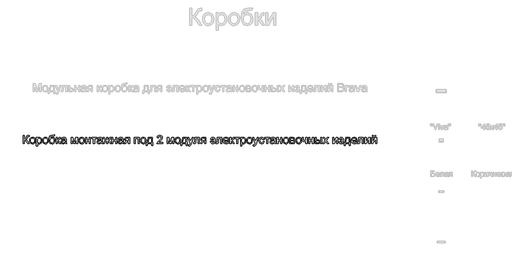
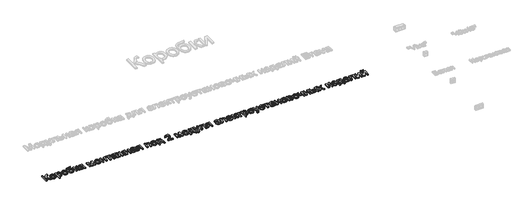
# One storey, part 38 of 48: 1 proxy.
"""IFC4 building model written with IfcOpenShell, lengths in millimetres."""

from ifc_helpers import new_model, si_unit, origin, origin_with_axes, place, context, project, spatial, polyline, outline, extrude, element, save

model = new_model("IFC4")

# Units and contexts
model_context = context("Model", 3, world=origin())
ifc_project = project(units=[si_unit("LENGTHUNIT", "METRE", prefix="MILLI")], contexts=[model_context])

# Site, building, storey
site = spatial("IfcSite", under=ifc_project)
building = spatial("IfcBuilding", under=site)
storey = spatial("IfcBuildingStorey", under=building, Name="Этаж 01", Elevation=0.0)

# Proxy
placement = place(None, origin())
element("IfcBuildingElementProxy", 1, Name="150 мм Arial", ObjectType="150 мм Arial", at=placement, inside=storey, context=model_context, shape_type="SweptSolid", body=[
    extrude(outline(polyline([(37161.6028971, 3244.4392307), (37180.4384552, 3244.4392307), (37180.4384552, 3178.5147772), (37193.1901649, 3179.7609775), (37201.4996994, 3183.4995782), (37216.1965851, 3208.717889), (37226.5892515, 3229.7791332), (37238.3614754, 3240.2085878), (37255.1920766, 3244.4392307), (37267.5529117, 3244.2185015), (37267.5529117, 3225.3829434), (37263.3958451, 3225.493308), (37259.2387786, 3225.6036726), (37244.5234988, 3221.078724), (37233.3398861, 3201.6913429), (37220.0041638, 3178.0733188), (37206.9995353, 3170.2742205), (37221.5400711, 3161.7577523), (37235.8782719, 3144.0074461), (37267.5529117, 3093.7547655), (37245.7007212, 3093.7547655), (37218.9189119, 3136.2083478), (37200.0649597, 3158.373238), (37191.3599519, 3162.8843909), (37180.4384552, 3164.3881086), (37180.4384552, 3093.7547655), (37161.6028971, 3093.7547655), (37161.6028971, 3244.4392307)])), origin_with_axes(), (0.0, 0.0, 1.0), 20.0),
    extrude(outline(polyline([(37276.9706907, 3149.0842176), (37281.0449838, 3175.7648593), (37293.2678631, 3194.517644), (37308.369419, 3203.7054968), (37326.4508191, 3206.7681144), (37346.2382719, 3203.0387107), (37362.0434021, 3191.8504995), (37372.4038788, 3174.0863977), (37375.857371, 3150.629322), (37374.3306608, 3131.6006258), (37369.7505299, 3117.1152722), (37362.2503358, 3106.2673519), (37351.9634355, 3098.1509554), (37339.7451547, 3093.0879794), (37326.4508191, 3091.4003207), (37306.424243, 3095.1159289), (37290.6375069, 3106.2627533), (37280.3873948, 3124.3993357), (37276.9706907, 3149.0842176)]), holes=[polyline([(37295.8062489, 3149.1210058), (37297.9859497, 3132.0742738), (37304.5250522, 3119.9295695), (37314.3658956, 3112.6593015), (37326.4508191, 3110.2358789), (37338.4805603, 3112.6730971), (37348.3030096, 3119.9847518), (37354.8421121, 3132.2904045), (37357.0218129, 3149.709617), (37354.8283165, 3166.2597082), (37348.2478273, 3178.2388657), (37338.4115825, 3185.5091336), (37326.4508191, 3187.9325563), (37314.3658956, 3185.5183307), (37304.5250522, 3178.2756539), (37297.9859497, 3166.1585407), (37295.8062489, 3149.1210058)])]), origin_with_axes(), (0.0, 0.0, 1.0), 20.0),
    extrude(outline(polyline([(37397.047374, 3051.3747597), (37397.047374, 3204.4136697), (37415.8829321, 3204.4136697), (37415.8829321, 3185.9459935), (37428.9059548, 3201.5625842), (37446.4907141, 3206.7681144), (37459.2286282, 3204.9470986), (37470.3662556, 3199.4840509), (37479.4345468, 3190.7100653), (37485.9644522, 3178.9562356), (37491.2251647, 3149.9303462), (37489.7398412, 3133.8217133), (37485.2838705, 3119.4145347), (37477.999807, 3107.4399757), (37468.0302049, 3098.6292019), (37456.4189295, 3093.207541), (37444.2098458, 3091.4003207), (37427.8207029, 3096.237969), (37415.8829321, 3108.4700453), (37415.8829321, 3051.3747597), (37397.047374, 3051.3747597)]), holes=[polyline([(37415.8829321, 3148.2013008), (37417.9200787, 3131.3155172), (37424.0315183, 3119.5065052), (37433.0492257, 3112.5535355), (37443.8051756, 3110.2358789), (37454.7358693, 3112.6363089), (37463.983503, 3119.837599), (37470.2880807, 3132.0788724), (37472.3896066, 3149.5992524), (37470.3386645, 3166.3930655), (37464.1858381, 3178.3676244), (37455.1819263, 3185.5413233), (37444.5777277, 3187.9325563), (37433.9321425, 3185.389572), (37424.5833413, 3177.7606191), (37418.0580344, 3165.2848209), (37415.8829321, 3148.2013008)])]), origin_with_axes(), (0.0, 0.0, 1.0), 20.0),
    extrude(outline(polyline([(37507.7062781, 3149.0842176), (37511.7805712, 3175.7648593), (37524.0034505, 3194.517644), (37539.1050064, 3203.7054968), (37557.1864065, 3206.7681144), (37576.9738593, 3203.0387107), (37592.7789895, 3191.8504995), (37603.1394662, 3174.0863977), (37606.5929584, 3150.629322), (37605.0662481, 3131.6006258), (37600.4861173, 3117.1152722), (37592.9859231, 3106.2673519), (37582.6990228, 3098.1509554), (37570.4807421, 3093.0879794), (37557.1864065, 3091.4003207), (37537.1598304, 3095.1159289), (37521.3730942, 3106.2627533), (37511.1229822, 3124.3993357), (37507.7062781, 3149.0842176)]), holes=[polyline([(37526.5418363, 3149.1210058), (37528.7215371, 3132.0742738), (37535.2606396, 3119.9295695), (37545.1014829, 3112.6593015), (37557.1864065, 3110.2358789), (37569.2161477, 3112.6730971), (37579.038597, 3119.9847518), (37585.5776994, 3132.2904045), (37587.7574003, 3149.709617), (37585.5639039, 3166.2597082), (37578.9834147, 3178.2388657), (37569.1471698, 3185.5091336), (37557.1864065, 3187.9325563), (37545.1014829, 3185.5183307), (37535.2606396, 3178.2756539), (37528.7215371, 3166.1585407), (37526.5418363, 3149.1210058)])]), origin_with_axes(), (0.0, 0.0, 1.0), 20.0),
    extrude(outline(polyline([(37705.4796387, 3246.7936755), (37721.9607521, 3246.7936755), (37717.1047098, 3232.0967898), (37707.5029897, 3226.780895), (37684.4367886, 3225.6036726), (37653.3691541, 3221.262665), (37646.2414405, 3215.6156764), (37641.4497775, 3207.3567256), (37637.4214696, 3182.7454201), (37653.7370361, 3200.7716379), (37663.6560544, 3205.2689953), (37674.7614921, 3206.7681144), (37694.3604054, 3202.9559373), (37710.2621047, 3191.5194057), (37720.8019238, 3173.5805599), (37724.3151969, 3150.26144), (37722.5723559, 3132.2812075), (37717.3438331, 3117.8510362), (37700.8075374, 3098.2981082), (37689.5135601, 3093.1247676), (37674.7614921, 3091.4003207), (37657.7607454, 3093.6214083), (37645.0182328, 3100.2846709), (37635.6418405, 3110.4106228), (37628.7394545, 3123.0197782), (37624.4904175, 3142.0070877), (37623.0740718, 3171.2675019), (37626.6471257, 3207.4073094), (37637.3662873, 3229.4480394), (37655.4982712, 3240.6914329), (37681.3097916, 3244.4392307), (37702.2790654, 3244.862295), (37705.4796387, 3246.7936755)]), holes=[polyline([(37705.4796387, 3150.8500512), (37703.4378937, 3165.671097), (37697.3126584, 3177.5398899), (37687.4718151, 3185.3343897), (37674.2832455, 3187.9325563), (37660.533656, 3185.1872369), (37650.3341277, 3176.9512787), (37644.0157544, 3164.1259927), (37641.90963, 3147.6126896), (37644.2364836, 3131.6052243), (37651.2170444, 3119.8559931), (37661.6097108, 3112.6409074), (37674.1728809, 3110.2358789), (37686.8004304, 3113.0179865), (37696.7976236, 3121.3643092), (37703.309135, 3134.2999599), (37705.4796387, 3150.8500512)])]), origin_with_axes(), (0.0, 0.0, 1.0), 20.0),
    extrude(outline(polyline([(37747.8596446, 3204.4136697), (37766.6952027, 3204.4136697), (37766.6952027, 3157.3247743), (37779.3135552, 3160.7092886), (37789.6510392, 3180.4277636), (37798.2410838, 3197.4423059), (37805.8194529, 3202.9789299), (37819.5966336, 3204.4136697), (37823.2018772, 3204.4136697), (37823.2018772, 3185.4677469), (37818.1251057, 3185.5781115), (37808.9280558, 3183.5915487), (37802.4533327, 3171.1939255), (37794.8565695, 3157.7846268), (37784.2063857, 3151.2179332), (37796.0889741, 3143.8878844), (37807.7508334, 3128.4460377), (37827.9107667, 3093.7547655), (37806.5000346, 3093.7547655), (37786.7447715, 3127.7102737), (37776.8119576, 3142.0760656), (37766.6952027, 3145.5525504), (37766.6952027, 3093.7547655), (37747.8596446, 3093.7547655), (37747.8596446, 3204.4136697)])), origin_with_axes(), (0.0, 0.0, 1.0), 20.0),
    extrude(outline(polyline([(37910.3163336, 3107.8814341), (37892.0509926, 3095.1159289), (37871.8726651, 3091.4003207), (37856.1319143, 3093.6352039), (37844.5206388, 3100.3398532), (37837.3607355, 3110.5209874), (37834.974101, 3123.1853251), (37838.5793446, 3138.0845459), (37848.052306, 3148.9002766), (37861.2408755, 3155.0806941), (37877.5380479, 3157.9133855), (37910.205969, 3164.3881086), (37910.3163336, 3168.5819633), (37909.0195496, 3176.9880669), (37905.1291975, 3182.4879027), (37896.4287883, 3186.5713929), (37884.3070766, 3187.9325563), (37865.2507892, 3184.3089186), (37856.164104, 3171.4514429), (37837.3285458, 3173.8058877), (37845.477132, 3192.1999874), (37861.884669, 3202.9789299), (37886.7350978, 3206.7681144), (37909.5621756, 3203.4203883), (37922.4564395, 3195.0142847), (37928.2321868, 3182.2303854), (37929.1518918, 3165.749272), (37929.1518918, 3142.3151889), (37930.108385, 3109.5920854), (37933.8607813, 3093.7547655), (37915.0252232, 3093.7547655), (37910.3163336, 3107.8814341)]), holes=[polyline([(37910.3163336, 3145.5525504), (37879.9292808, 3139.7768031), (37863.724079, 3136.7233825), (37856.3848331, 3131.7569756), (37853.8096592, 3124.5097003), (37859.4198596, 3114.319369), (37875.8825789, 3110.2358789), (37894.9388662, 3114.7424333), (37907.2261249, 3125.6501345), (37910.205969, 3140.2182615), (37910.3163336, 3145.5525504)])]), origin_with_axes(), (0.0, 0.0, 1.0), 20.0),
    extrude(outline(polyline([(38013.9119035, 3204.4136697), (38046.3223073, 3204.4136697), (38071.3014947, 3115.8276852), (38098.2304568, 3204.4136697), (38129.2796972, 3204.4136697), (38129.2796972, 3093.7547655), (38110.444139, 3093.7547655), (38110.444139, 3182.8557847), (38083.3680242, 3093.7547655), (38058.6463541, 3093.7547655), (38032.7474616, 3187.1232159), (38032.7474616, 3093.7547655), (38013.9119035, 3093.7547655), (38013.9119035, 3204.4136697)])), origin_with_axes(), (0.0, 0.0, 1.0), 20.0),
    extrude(outline(polyline([(38152.8241449, 3149.0842176), (38156.898438, 3175.7648593), (38169.1213172, 3194.517644), (38184.2228732, 3203.7054968), (38202.3042732, 3206.7681144), (38222.091726, 3203.0387107), (38237.8968562, 3191.8504995), (38248.2573329, 3174.0863977), (38251.7108252, 3150.629322), (38250.1841149, 3131.6006258), (38245.603984, 3117.1152722), (38238.1037899, 3106.2673519), (38227.8168896, 3098.1509554), (38215.5986088, 3093.0879794), (38202.3042732, 3091.4003207), (38182.2776971, 3095.1159289), (38166.490961, 3106.2627533), (38156.2408489, 3124.3993357), (38152.8241449, 3149.0842176)]), holes=[polyline([(38171.659703, 3149.1210058), (38173.8394038, 3132.0742738), (38180.3785063, 3119.9295695), (38190.2193497, 3112.6593015), (38202.3042732, 3110.2358789), (38214.3340145, 3112.6730971), (38224.1564637, 3119.9847518), (38230.6955662, 3132.2904045), (38232.875267, 3149.709617), (38230.6817706, 3166.2597082), (38224.1012814, 3178.2388657), (38214.2650366, 3185.5091336), (38202.3042732, 3187.9325563), (38190.2193497, 3185.5183307), (38180.3785063, 3178.2756539), (38173.8394038, 3166.1585407), (38171.659703, 3149.1210058)])]), origin_with_axes(), (0.0, 0.0, 1.0), 20.0),
    extrude(outline(polyline([(38272.9008281, 3204.4136697), (38291.7363862, 3204.4136697), (38291.7363862, 3162.0336638), (38341.1797264, 3162.0336638), (38341.1797264, 3204.4136697), (38360.0152845, 3204.4136697), (38360.0152845, 3093.7547655), (38341.1797264, 3093.7547655), (38341.1797264, 3143.1981057), (38291.7363862, 3143.1981057), (38291.7363862, 3093.7547655), (38272.9008281, 3093.7547655), (38272.9008281, 3204.4136697)])), origin_with_axes(), (0.0, 0.0, 1.0), 20.0),
    extrude(outline(polyline([(38378.8508427, 3204.4136697), (38468.3197439, 3204.4136697), (38468.3197439, 3185.5781115), (38433.0030724, 3185.5781115), (38433.0030724, 3093.7547655), (38414.1675142, 3093.7547655), (38414.1675142, 3185.5781115), (38378.8508427, 3185.5781115), (38378.8508427, 3204.4136697)])), origin_with_axes(), (0.0, 0.0, 1.0), 20.0),
    extrude(outline(polyline([(38555.4342004, 3107.8814341), (38537.1688593, 3095.1159289), (38516.9905319, 3091.4003207), (38501.249781, 3093.6352039), (38489.6385055, 3100.3398532), (38482.4786022, 3110.5209874), (38480.0919678, 3123.1853251), (38483.6972113, 3138.0845459), (38493.1701727, 3148.9002766), (38506.3587422, 3155.0806941), (38522.6559146, 3157.9133855), (38555.3238358, 3164.3881086), (38555.4342004, 3168.5819633), (38554.1374164, 3176.9880669), (38550.2470643, 3182.4879027), (38541.5466551, 3186.5713929), (38529.4249433, 3187.9325563), (38510.368656, 3184.3089186), (38501.2819707, 3171.4514429), (38482.4464125, 3173.8058877), (38490.5949987, 3192.1999874), (38507.0025357, 3202.9789299), (38531.8529645, 3206.7681144), (38554.6800423, 3203.4203883), (38567.5743062, 3195.0142847), (38573.3500535, 3182.2303854), (38574.2697585, 3165.749272), (38574.2697585, 3142.3151889), (38575.2262517, 3109.5920854), (38578.9786481, 3093.7547655), (38560.1430899, 3093.7547655), (38555.4342004, 3107.8814341)]), holes=[polyline([(38555.4342004, 3145.5525504), (38525.0471476, 3139.7768031), (38508.8419457, 3136.7233825), (38501.5026999, 3131.7569756), (38498.9275259, 3124.5097003), (38504.5377264, 3114.319369), (38521.0004456, 3110.2358789), (38540.056733, 3114.7424333), (38552.3439916, 3125.6501345), (38555.3238358, 3140.2182615), (38555.4342004, 3145.5525504)])]), origin_with_axes(), (0.0, 0.0, 1.0), 20.0),
    extrude(outline(polyline([(38668.4475493, 3204.4136697), (38668.4475493, 3157.3247743), (38679.4288269, 3161.2059293), (38689.8214932, 3181.3474686), (38702.2191165, 3200.6612733), (38719.840664, 3204.4136697), (38727.3086685, 3204.4136697), (38727.3086685, 3185.4677469), (38722.1215324, 3185.5781115), (38712.4094477, 3183.6283369), (38705.6772072, 3171.4146547), (38697.8597148, 3158.0237501), (38686.6944963, 3151.2179332), (38699.0093461, 3143.8878844), (38711.0114961, 3128.4460377), (38732.0175581, 3093.7547655), (38710.422885, 3093.7547655), (38689.7479168, 3127.9677911), (38679.2080977, 3142.1864302), (38668.4475493, 3145.5525504), (38668.4475493, 3093.7547655), (38649.6119911, 3093.7547655), (38649.6119911, 3145.5525504), (38638.888231, 3142.2600066), (38628.2748354, 3128.0413675), (38607.5998673, 3093.7547655), (38586.0419824, 3093.7547655), (38606.9744679, 3128.4460377), (38619.0685885, 3143.8878844), (38631.4386206, 3151.2179332), (38619.5928203, 3158.7227259), (38609.4392773, 3178.0365306), (38604.4728703, 3184.4008891), (38596.3426782, 3185.6884761), (38590.7508719, 3185.5781115), (38590.7508719, 3204.4136697), (38593.5835633, 3204.4136697), (38610.1014649, 3203.2364473), (38618.6731154, 3198.2332521), (38628.2748354, 3181.3474686), (38638.5571372, 3161.334688), (38649.6119911, 3157.3247743), (38649.6119911, 3204.4136697), (38668.4475493, 3204.4136697)])), origin_with_axes(), (0.0, 0.0, 1.0), 20.0),
    extrude(outline(polyline([(38741.4353371, 3204.4136697), (38760.2708953, 3204.4136697), (38760.2708953, 3162.0336638), (38809.7142355, 3162.0336638), (38809.7142355, 3204.4136697), (38828.5497936, 3204.4136697), (38828.5497936, 3093.7547655), (38809.7142355, 3093.7547655), (38809.7142355, 3143.1981057), (38760.2708953, 3143.1981057), (38760.2708953, 3093.7547655), (38741.4353371, 3093.7547655), (38741.4353371, 3204.4136697)])), origin_with_axes(), (0.0, 0.0, 1.0), 20.0),
    extrude(outline(polyline([(38927.4364739, 3107.8814341), (38909.1711328, 3095.1159289), (38888.9928054, 3091.4003207), (38873.2520545, 3093.6352039), (38861.6407791, 3100.3398532), (38854.4808757, 3110.5209874), (38852.0942413, 3123.1853251), (38855.6994848, 3138.0845459), (38865.1724462, 3148.9002766), (38878.3610158, 3155.0806941), (38894.6581881, 3157.9133855), (38927.3261093, 3164.3881086), (38927.4364739, 3168.5819633), (38926.1396899, 3176.9880669), (38922.2493378, 3182.4879027), (38913.5489286, 3186.5713929), (38901.4272168, 3187.9325563), (38882.3709295, 3184.3089186), (38873.2842442, 3171.4514429), (38854.4486861, 3173.8058877), (38862.5972723, 3192.1999874), (38879.0048092, 3202.9789299), (38903.855238, 3206.7681144), (38926.6823158, 3203.4203883), (38939.5765797, 3195.0142847), (38945.3523271, 3182.2303854), (38946.2720321, 3165.749272), (38946.2720321, 3142.3151889), (38947.2285252, 3109.5920854), (38950.9809216, 3093.7547655), (38932.1453634, 3093.7547655), (38927.4364739, 3107.8814341)]), holes=[polyline([(38927.4364739, 3145.5525504), (38897.0494211, 3139.7768031), (38880.8442192, 3136.7233825), (38873.5049734, 3131.7569756), (38870.9297994, 3124.5097003), (38876.5399999, 3114.319369), (38893.0027192, 3110.2358789), (38912.0590065, 3114.7424333), (38924.3462651, 3125.6501345), (38927.3261093, 3140.2182615), (38927.4364739, 3145.5525504)])]), origin_with_axes(), (0.0, 0.0, 1.0), 20.0),
    extrude(outline(polyline([(39056.9309362, 3204.4136697), (39056.9309362, 3093.7547655), (39038.0953781, 3093.7547655), (39038.0953781, 3136.1347714), (39027.8314704, 3136.1347714), (39013.8519546, 3133.7435384), (39000.7185673, 3117.6670952), (38985.7089819, 3093.7547655), (38963.9303678, 3093.7547655), (38982.8395024, 3123.9946655), (38991.1904237, 3134.8471844), (38998.8791574, 3139.6664385), (38986.0032875, 3143.6119729), (38976.9533905, 3151.1075686), (38971.6007074, 3161.0771706), (38969.8164798, 3172.4447243), (38972.253698, 3185.3389882), (38979.5653526, 3195.5477136), (38991.4939263, 3202.1971806), (39007.7819017, 3204.4136697), (39056.9309362, 3204.4136697)]), holes=[polyline([(39038.0953781, 3185.5781115), (39013.2633434, 3185.5781115), (39000.4380573, 3184.4882611), (38993.1585923, 3181.2187099), (38988.6520379, 3171.0099845), (38990.3121054, 3163.8316871), (38995.2923079, 3158.8514846), (39018.8183615, 3154.9703295), (39038.0953781, 3154.9703295), (39038.0953781, 3185.5781115)])]), origin_with_axes(), (0.0, 0.0, 1.0), 20.0),
    extrude(outline(polyline([(39144.0453927, 3204.4136697), (39228.8054044, 3204.4136697), (39228.8054044, 3093.7547655), (39209.9698462, 3093.7547655), (39209.9698462, 3185.5781115), (39162.8809508, 3185.5781115), (39162.8809508, 3093.7547655), (39144.0453927, 3093.7547655), (39144.0453927, 3204.4136697)])), origin_with_axes(), (0.0, 0.0, 1.0), 20.0),
    extrude(outline(polyline([(39252.349852, 3149.0842176), (39256.4241451, 3175.7648593), (39268.6470244, 3194.517644), (39283.7485803, 3203.7054968), (39301.8299804, 3206.7681144), (39321.6174332, 3203.0387107), (39337.4225634, 3191.8504995), (39347.7830401, 3174.0863977), (39351.2365324, 3150.629322), (39349.7098221, 3131.6006258), (39345.1296912, 3117.1152722), (39337.6294971, 3106.2673519), (39327.3425968, 3098.1509554), (39315.124316, 3093.0879794), (39301.8299804, 3091.4003207), (39281.8034043, 3095.1159289), (39266.0166682, 3106.2627533), (39255.7665561, 3124.3993357), (39252.349852, 3149.0842176)]), holes=[polyline([(39271.1854102, 3149.1210058), (39273.365111, 3132.0742738), (39279.9042135, 3119.9295695), (39289.7450569, 3112.6593015), (39301.8299804, 3110.2358789), (39313.8597216, 3112.6730971), (39323.6821709, 3119.9847518), (39330.2212734, 3132.2904045), (39332.4009742, 3149.709617), (39330.2074778, 3166.2597082), (39323.6269886, 3178.2388657), (39313.7907438, 3185.5091336), (39301.8299804, 3187.9325563), (39289.7450569, 3185.5183307), (39279.9042135, 3178.2756539), (39273.365111, 3166.1585407), (39271.1854102, 3149.1210058)])]), origin_with_axes(), (0.0, 0.0, 1.0), 20.0),
    extrude(outline(polyline([(39388.9076487, 3204.4136697), (39459.5409917, 3204.4136697), (39459.5409917, 3112.5903237), (39473.6676603, 3112.5903237), (39473.6676603, 3063.1469835), (39454.8321022, 3063.1469835), (39454.8321022, 3093.7547655), (39377.1354248, 3093.7547655), (39377.1354248, 3063.1469835), (39358.2998667, 3063.1469835), (39358.2998667, 3112.5903237), (39370.0720905, 3112.5903237), (39378.6299454, 3128.055163), (39384.6218234, 3148.5140005), (39388.9076487, 3204.4136697)]), holes=[polyline([(39405.388762, 3185.5781115), (39400.9741781, 3142.6646768), (39391.2620934, 3112.5903237), (39440.7054336, 3112.5903237), (39440.7054336, 3185.5781115), (39405.388762, 3185.5781115)])]), origin_with_axes(), (0.0, 0.0, 1.0), 20.0),
    extrude(outline(polyline([(39645.5421285, 3112.5903237), (39645.5421285, 3093.7547655), (39546.6554482, 3093.7547655), (39548.6787992, 3106.7409999), (39560.1199292, 3126.7353864), (39583.7011651, 3148.5691828), (39616.2219335, 3179.949517), (39622.3195775, 3190.7652476), (39624.3521256, 3201.2866727), (39622.4345407, 3210.7182474), (39616.681786, 3218.5587324), (39607.8388225, 3223.8424375), (39596.6506113, 3225.6036726), (39584.9013801, 3223.8838243), (39575.7733081, 3218.7242793), (39569.8825977, 3210.5297078), (39567.8454511, 3199.7047801), (39549.009893, 3202.0592249), (39553.5762282, 3220.2785807), (39563.4492613, 3233.5867119), (39578.1139573, 3241.726101), (39597.0552815, 3244.4392307), (39616.1345615, 3241.4225984), (39630.7716664, 3232.3727013), (39640.0836794, 3218.853038), (39643.1876837, 3202.4271069), (39639.8399576, 3184.566436), (39628.7115272, 3166.0987599), (39601.7273829, 3140.2918379), (39580.0591334, 3122.1736496), (39571.5610593, 3112.5903237), (39645.5421285, 3112.5903237)])), origin_with_axes(), (0.0, 0.0, 1.0), 20.0),
    extrude(outline(polyline([(39727.9476954, 3204.4136697), (39760.3580992, 3204.4136697), (39785.3372867, 3115.8276852), (39812.2662487, 3204.4136697), (39843.3154891, 3204.4136697), (39843.3154891, 3093.7547655), (39824.4799309, 3093.7547655), (39824.4799309, 3182.8557847), (39797.4038161, 3093.7547655), (39772.682146, 3093.7547655), (39746.7832536, 3187.1232159), (39746.7832536, 3093.7547655), (39727.9476954, 3093.7547655), (39727.9476954, 3204.4136697)])), origin_with_axes(), (0.0, 0.0, 1.0), 20.0),
    extrude(outline(polyline([(39866.8599368, 3149.0842176), (39870.9342299, 3175.7648593), (39883.1571092, 3194.517644), (39898.2586651, 3203.7054968), (39916.3400651, 3206.7681144), (39936.127518, 3203.0387107), (39951.9326482, 3191.8504995), (39962.2931249, 3174.0863977), (39965.7466171, 3150.629322), (39964.2199068, 3131.6006258), (39959.639776, 3117.1152722), (39952.1395818, 3106.2673519), (39941.8526815, 3098.1509554), (39929.6344007, 3093.0879794), (39916.3400651, 3091.4003207), (39896.313489, 3095.1159289), (39880.5267529, 3106.2627533), (39870.2766408, 3124.3993357), (39866.8599368, 3149.0842176)]), holes=[polyline([(39885.6954949, 3149.1210058), (39887.8751958, 3132.0742738), (39894.4142982, 3119.9295695), (39904.2551416, 3112.6593015), (39916.3400651, 3110.2358789), (39928.3698064, 3112.6730971), (39938.1922557, 3119.9847518), (39944.7313581, 3132.2904045), (39946.9110589, 3149.709617), (39944.7175625, 3166.2597082), (39938.1370734, 3178.2388657), (39928.3008285, 3185.5091336), (39916.3400651, 3187.9325563), (39904.2551416, 3185.5183307), (39894.4142982, 3178.2756539), (39887.8751958, 3166.1585407), (39885.6954949, 3149.1210058)])]), origin_with_axes(), (0.0, 0.0, 1.0), 20.0),
    extrude(outline(polyline([(40003.4177334, 3204.4136697), (40074.0510765, 3204.4136697), (40074.0510765, 3112.5903237), (40088.1777451, 3112.5903237), (40088.1777451, 3063.1469835), (40069.3421869, 3063.1469835), (40069.3421869, 3093.7547655), (39991.6455096, 3093.7547655), (39991.6455096, 3063.1469835), (39972.8099514, 3063.1469835), (39972.8099514, 3112.5903237), (39984.5821752, 3112.5903237), (39993.1400302, 3128.055163), (39999.1319082, 3148.5140005), (40003.4177334, 3204.4136697)]), holes=[polyline([(40019.8988468, 3185.5781115), (40015.4842628, 3142.6646768), (40005.7721782, 3112.5903237), (40055.2155183, 3112.5903237), (40055.2155183, 3185.5781115), (40019.8988468, 3185.5781115)])]), origin_with_axes(), (0.0, 0.0, 1.0), 20.0),
    extrude(outline(polyline([(40109.367748, 3051.3747597), (40107.0133032, 3069.511342), (40116.5782351, 3067.8558731), (40125.5177676, 3069.9344063), (40130.9992093, 3075.7285477), (40136.1495573, 3089.597699), (40137.6210852, 3094.1594357), (40097.5955242, 3204.4136697), (40117.4611519, 3204.4136697), (40138.687943, 3142.9773765), (40146.0823711, 3118.4028592), (40153.4767992, 3140.1078969), (40175.2922015, 3204.4136697), (40195.0106765, 3204.4136697), (40156.4934316, 3091.1060151), (40146.4870413, 3066.5314979), (40135.5609461, 3053.2509578), (40120.8824545, 3049.0203149), (40109.367748, 3051.3747597)])), origin_with_axes(), (0.0, 0.0, 1.0), 20.0),
    extrude(outline(polyline([(40220.0266522, 3204.4136697), (40304.7866638, 3204.4136697), (40304.7866638, 3093.8651301), (40285.9511057, 3093.8651301), (40285.9511057, 3185.5781115), (40238.8622103, 3185.5781115), (40238.8622103, 3132.7870452), (40237.5930174, 3108.4332571), (40230.6216536, 3098.1509554), (40214.1405402, 3093.7547655), (40198.8366492, 3094.7112587), (40198.8366492, 3112.5903237), (40207.2611469, 3112.5903237), (40215.7776151, 3113.7491519), (40219.1805236, 3117.4279719), (40220.0266522, 3133.853903), (40220.0266522, 3204.4136697)])), origin_with_axes(), (0.0, 0.0, 1.0), 20.0),
    extrude(outline(polyline([(40417.8000128, 3204.4136697), (40417.8000128, 3093.7547655), (40398.9644546, 3093.7547655), (40398.9644546, 3136.1347714), (40388.7005469, 3136.1347714), (40374.7210311, 3133.7435384), (40361.5876439, 3117.6670952), (40346.5780585, 3093.7547655), (40324.7994444, 3093.7547655), (40343.7085789, 3123.9946655), (40352.0595002, 3134.8471844), (40359.7482339, 3139.6664385), (40346.8723641, 3143.6119729), (40337.822467, 3151.1075686), (40332.469784, 3161.0771706), (40330.6855563, 3172.4447243), (40333.1227745, 3185.3389882), (40340.4344292, 3195.5477136), (40352.3630029, 3202.1971806), (40368.6509782, 3204.4136697), (40417.8000128, 3204.4136697)]), holes=[polyline([(40398.9644546, 3185.5781115), (40374.1324199, 3185.5781115), (40361.3071339, 3184.4882611), (40354.0276689, 3181.2187099), (40349.5211145, 3171.0099845), (40351.181182, 3163.8316871), (40356.1613845, 3158.8514846), (40379.6874381, 3154.9703295), (40398.9644546, 3154.9703295), (40398.9644546, 3185.5781115)])]), origin_with_axes(), (0.0, 0.0, 1.0), 20.0),
    extrude(outline(polyline([(40535.5222512, 3162.0336638), (40570.8389228, 3162.0336638), (40567.9372535, 3172.4677169), (40562.3224546, 3180.7404633), (40554.3624079, 3186.134533), (40544.4249955, 3187.9325563), (40529.1578927, 3183.2236667), (40521.3955826, 3169.0969981), (40502.5600245, 3171.4514429), (40506.9516158, 3185.5919071), (40515.4910766, 3196.8904829), (40527.7461456, 3204.2987065), (40543.2845613, 3206.7681144), (40562.5109941, 3202.9237476), (40577.2216754, 3191.390647), (40586.5612795, 3173.125306), (40589.6744809, 3149.0842176), (40587.1039055, 3125.1534938), (40578.2149568, 3106.3363297), (40563.6882165, 3094.4721354), (40544.2042663, 3091.4003207), (40527.5024237, 3094.1548372), (40514.3322483, 3102.4183865), (40505.0984102, 3115.1792932), (40500.2055797, 3131.4258818), (40519.0411378, 3133.7803266), (40522.0163835, 3123.4796307), (40527.1529358, 3116.1219908), (40534.4507949, 3111.7074069), (40543.9099607, 3110.2358789), (40554.5509474, 3112.2960181), (40562.5615779, 3118.4764356), (40567.9786402, 3128.7771315), (40570.8389228, 3143.1981057), (40535.5222512, 3143.1981057), (40535.5222512, 3162.0336638)])), origin_with_axes(), (0.0, 0.0, 1.0), 20.0),
    extrude(outline(polyline([(40620.2822629, 3204.4136697), (40705.0422746, 3204.4136697), (40705.0422746, 3093.8651301), (40686.2067164, 3093.8651301), (40686.2067164, 3185.5781115), (40639.1178211, 3185.5781115), (40639.1178211, 3132.7870452), (40637.8486282, 3108.4332571), (40630.8772644, 3098.1509554), (40614.396151, 3093.7547655), (40599.09226, 3094.7112587), (40599.09226, 3112.5903237), (40607.5167577, 3112.5903237), (40616.0332259, 3113.7491519), (40619.4361343, 3117.4279719), (40620.2822629, 3133.853903), (40620.2822629, 3204.4136697)])), origin_with_axes(), (0.0, 0.0, 1.0), 20.0),
    extrude(outline(polyline([(40810.77156, 3126.7169923), (40829.2392362, 3124.3625475), (40822.5851706, 3110.447411), (40811.9671765, 3100.0455476), (40797.6243772, 3093.5616275), (40779.795896, 3091.4003207), (40757.6953852, 3095.1297245), (40740.6900399, 3106.3179356), (40729.8467181, 3124.2383873), (40726.2322775, 3148.1645126), (40729.8835063, 3172.8953797), (40740.8371927, 3191.390647), (40757.6126117, 3202.9237476), (40778.7290382, 3206.7681144), (40799.1878757, 3202.9329446), (40815.5356319, 3191.4274352), (40826.2547935, 3172.9689561), (40829.8278474, 3148.2748772), (40829.7174828, 3143.1981057), (40745.0678357, 3143.1981057), (40748.3281899, 3129.0990282), (40755.9019604, 3118.733953), (40766.8326542, 3112.3603974), (40780.163778, 3110.2358789), (40798.6314542, 3114.1722162), (40810.77156, 3126.7169923)]), holes=[polyline([(40745.0678357, 3162.0336638), (40810.9922892, 3162.0336638), (40808.4447064, 3171.9848718), (40803.4507083, 3179.1033884), (40792.4694308, 3185.7252643), (40778.6554618, 3187.9325563), (40765.9589345, 3186.1713212), (40755.460502, 3180.8876161), (40748.162643, 3172.6516579), (40745.0678357, 3162.0336638)])]), origin_with_axes(), (0.0, 0.0, 1.0), 20.0),
    extrude(outline(polyline([(40848.6634055, 3204.4136697), (40867.4989637, 3204.4136697), (40867.4989637, 3157.3247743), (40880.1173161, 3160.7092886), (40890.4548002, 3180.4277636), (40899.0448448, 3197.4423059), (40906.6232139, 3202.9789299), (40920.4003946, 3204.4136697), (40924.0056381, 3204.4136697), (40924.0056381, 3185.4677469), (40918.9288666, 3185.5781115), (40909.7318167, 3183.5915487), (40903.2570936, 3171.1939255), (40895.6603304, 3157.7846268), (40885.0101466, 3151.2179332), (40896.8927351, 3143.8878844), (40908.5545943, 3128.4460377), (40928.7145277, 3093.7547655), (40907.3037955, 3093.7547655), (40887.5485324, 3127.7102737), (40877.6157185, 3142.0760656), (40867.4989637, 3145.5525504), (40867.4989637, 3093.7547655), (40848.6634055, 3093.7547655), (40848.6634055, 3204.4136697)])), origin_with_axes(), (0.0, 0.0, 1.0), 20.0),
    extrude(outline(polyline([(40931.0689724, 3204.4136697), (41020.5378737, 3204.4136697), (41020.5378737, 3185.5781115), (40985.2212021, 3185.5781115), (40985.2212021, 3093.7547655), (40966.385644, 3093.7547655), (40966.385644, 3185.5781115), (40931.0689724, 3185.5781115), (40931.0689724, 3204.4136697)])), origin_with_axes(), (0.0, 0.0, 1.0), 20.0),
    extrude(outline(polyline([(41037.018987, 3051.3747597), (41037.018987, 3204.4136697), (41055.8545452, 3204.4136697), (41055.8545452, 3185.9459935), (41068.8775678, 3201.5625842), (41086.4623272, 3206.7681144), (41099.2002413, 3204.9470986), (41110.3378687, 3199.4840509), (41119.4061599, 3190.7100653), (41125.9360653, 3178.9562356), (41131.1967778, 3149.9303462), (41129.7114543, 3133.8217133), (41125.2554836, 3119.4145347), (41117.9714201, 3107.4399757), (41108.001818, 3098.6292019), (41096.3905425, 3093.207541), (41084.1814588, 3091.4003207), (41067.7923159, 3096.237969), (41055.8545452, 3108.4700453), (41055.8545452, 3051.3747597), (41037.018987, 3051.3747597)]), holes=[polyline([(41055.8545452, 3148.2013008), (41057.8916918, 3131.3155172), (41064.0031314, 3119.5065052), (41073.0208388, 3112.5535355), (41083.7767886, 3110.2358789), (41094.7074824, 3112.6363089), (41103.9551161, 3119.837599), (41110.2596938, 3132.0788724), (41112.3612197, 3149.5992524), (41110.3102775, 3166.3930655), (41104.1574512, 3178.3676244), (41095.1535393, 3185.5413233), (41084.5493408, 3187.9325563), (41073.9037556, 3185.389572), (41064.5549544, 3177.7606191), (41058.0296475, 3165.2848209), (41055.8545452, 3148.2013008)])]), origin_with_axes(), (0.0, 0.0, 1.0), 20.0),
    extrude(outline(polyline([(41147.6778912, 3149.0842176), (41151.7521843, 3175.7648593), (41163.9750636, 3194.517644), (41179.0766195, 3203.7054968), (41197.1580195, 3206.7681144), (41216.9454724, 3203.0387107), (41232.7506026, 3191.8504995), (41243.1110793, 3174.0863977), (41246.5645715, 3150.629322), (41245.0378612, 3131.6006258), (41240.4577304, 3117.1152722), (41232.9575362, 3106.2673519), (41222.6706359, 3098.1509554), (41210.4523551, 3093.0879794), (41197.1580195, 3091.4003207), (41177.1314434, 3095.1159289), (41161.3447073, 3106.2627533), (41151.0945952, 3124.3993357), (41147.6778912, 3149.0842176)]), holes=[polyline([(41166.5134494, 3149.1210058), (41168.6931502, 3132.0742738), (41175.2322526, 3119.9295695), (41185.073096, 3112.6593015), (41197.1580195, 3110.2358789), (41209.1877608, 3112.6730971), (41219.0102101, 3119.9847518), (41225.5493125, 3132.2904045), (41227.7290133, 3149.709617), (41225.535517, 3166.2597082), (41218.9550278, 3178.2388657), (41209.1187829, 3185.5091336), (41197.1580195, 3187.9325563), (41185.073096, 3185.5183307), (41175.2322526, 3178.2756539), (41168.6931502, 3166.1585407), (41166.5134494, 3149.1210058)])]), origin_with_axes(), (0.0, 0.0, 1.0), 20.0),
    extrude(outline(polyline([(41267.7545744, 3051.3747597), (41265.4001297, 3069.511342), (41274.9650615, 3067.8558731), (41283.904594, 3069.9344063), (41289.3860357, 3075.7285477), (41294.5363837, 3089.597699), (41296.0079117, 3094.1594357), (41255.9823506, 3204.4136697), (41275.8479783, 3204.4136697), (41297.0747694, 3142.9773765), (41304.4691975, 3118.4028592), (41311.8636256, 3140.1078969), (41333.679028, 3204.4136697), (41353.3975029, 3204.4136697), (41314.880258, 3091.1060151), (41304.8738677, 3066.5314979), (41293.9477725, 3053.2509578), (41279.2692809, 3049.0203149), (41267.7545744, 3051.3747597)])), origin_with_axes(), (0.0, 0.0, 1.0), 20.0),
    extrude(outline(polyline([(41439.6290426, 3133.7803266), (41458.4646007, 3131.4258818), (41453.2130852, 3114.6734555), (41443.3446507, 3102.0137163), (41429.7881992, 3094.0536696), (41413.4726327, 3091.4003207), (41393.4368596, 3095.1021333), (41377.7696851, 3106.207571), (41367.6575287, 3124.2291903), (41364.28681, 3148.6795474), (41365.7261483, 3165.4411708), (41370.0441632, 3179.9679111), (41377.3098326, 3191.6987482), (41387.5921344, 3200.0726621), (41399.8931886, 3205.0942514), (41413.2151153, 3206.7681144), (41429.1306101, 3204.468852), (41441.8547286, 3197.5710645), (41450.9828006, 3186.4426342), (41456.110156, 3171.4514429), (41437.2745978, 3169.0969981), (41428.5374004, 3183.2052726), (41413.3622681, 3187.9325563), (41401.1899726, 3185.6057027), (41391.5284717, 3178.6251418), (41385.223894, 3166.6137947), (41383.1223681, 3149.1945822), (41385.1779088, 3131.5408449), (41391.3445307, 3119.4881111), (41400.8312877, 3112.5489369), (41412.8472333, 3110.2358789), (41422.6007047, 3111.6798157), (41430.5975396, 3116.0116262), (41436.4146736, 3123.341675), (41439.6290426, 3133.7803266)])), origin_with_axes(), (0.0, 0.0, 1.0), 20.0),
    extrude(outline(polyline([(41465.527935, 3204.4136697), (41554.9968363, 3204.4136697), (41554.9968363, 3185.5781115), (41519.6801647, 3185.5781115), (41519.6801647, 3093.7547655), (41500.8446066, 3093.7547655), (41500.8446066, 3185.5781115), (41465.527935, 3185.5781115), (41465.527935, 3204.4136697)])), origin_with_axes(), (0.0, 0.0, 1.0), 20.0),
    extrude(outline(polyline([(41642.1112927, 3107.8814341), (41623.8459517, 3095.1159289), (41603.6676242, 3091.4003207), (41587.9268734, 3093.6352039), (41576.3155979, 3100.3398532), (41569.1556945, 3110.5209874), (41566.7690601, 3123.1853251), (41570.3743037, 3138.0845459), (41579.847265, 3148.9002766), (41593.0358346, 3155.0806941), (41609.3330069, 3157.9133855), (41642.0009281, 3164.3881086), (41642.1112927, 3168.5819633), (41640.8145087, 3176.9880669), (41636.9241566, 3182.4879027), (41628.2237474, 3186.5713929), (41616.1020357, 3187.9325563), (41597.0457483, 3184.3089186), (41587.959063, 3171.4514429), (41569.1235049, 3173.8058877), (41577.2720911, 3192.1999874), (41593.6796281, 3202.9789299), (41618.5300568, 3206.7681144), (41641.3571346, 3203.4203883), (41654.2513986, 3195.0142847), (41660.0271459, 3182.2303854), (41660.9468509, 3165.749272), (41660.9468509, 3142.3151889), (41661.9033441, 3109.5920854), (41665.6557404, 3093.7547655), (41646.8201823, 3093.7547655), (41642.1112927, 3107.8814341)]), holes=[polyline([(41642.1112927, 3145.5525504), (41611.7242399, 3139.7768031), (41595.519038, 3136.7233825), (41588.1797922, 3131.7569756), (41585.6046183, 3124.5097003), (41591.2148187, 3114.319369), (41607.677538, 3110.2358789), (41626.7338253, 3114.7424333), (41639.021084, 3125.6501345), (41642.0009281, 3140.2182615), (41642.1112927, 3145.5525504)])]), origin_with_axes(), (0.0, 0.0, 1.0), 20.0),
    extrude(outline(polyline([(41686.8457433, 3204.4136697), (41705.6813015, 3204.4136697), (41705.6813015, 3162.0336638), (41755.1246416, 3162.0336638), (41755.1246416, 3204.4136697), (41773.9601998, 3204.4136697), (41773.9601998, 3093.7547655), (41755.1246416, 3093.7547655), (41755.1246416, 3143.1981057), (41705.6813015, 3143.1981057), (41705.6813015, 3093.7547655), (41686.8457433, 3093.7547655), (41686.8457433, 3204.4136697)])), origin_with_axes(), (0.0, 0.0, 1.0), 20.0),
    extrude(outline(polyline([(41797.5046475, 3149.0842176), (41801.5789406, 3175.7648593), (41813.8018199, 3194.517644), (41828.9033758, 3203.7054968), (41846.9847758, 3206.7681144), (41866.7722286, 3203.0387107), (41882.5773589, 3191.8504995), (41892.9378356, 3174.0863977), (41896.3913278, 3150.629322), (41894.8646175, 3131.6006258), (41890.2844867, 3117.1152722), (41882.7842925, 3106.2673519), (41872.4973922, 3098.1509554), (41860.2791114, 3093.0879794), (41846.9847758, 3091.4003207), (41826.9581997, 3095.1159289), (41811.1714636, 3106.2627533), (41800.9213515, 3124.3993357), (41797.5046475, 3149.0842176)]), holes=[polyline([(41816.3402056, 3149.1210058), (41818.5199065, 3132.0742738), (41825.0590089, 3119.9295695), (41834.8998523, 3112.6593015), (41846.9847758, 3110.2358789), (41859.0145171, 3112.6730971), (41868.8369663, 3119.9847518), (41875.3760688, 3132.2904045), (41877.5557696, 3149.709617), (41875.3622732, 3166.2597082), (41868.781784, 3178.2388657), (41858.9455392, 3185.5091336), (41846.9847758, 3187.9325563), (41834.8998523, 3185.5183307), (41825.0590089, 3178.2756539), (41818.5199065, 3166.1585407), (41816.3402056, 3149.1210058)])]), origin_with_axes(), (0.0, 0.0, 1.0), 20.0),
    extrude(outline(polyline([(41917.5813307, 3204.4136697), (41959.0784198, 3204.4136697), (41981.8319212, 3201.893678), (41994.6342146, 3192.6598399), (41999.9868976, 3176.5650026), (41996.7495361, 3163.4867977), (41987.0006632, 3154.1609891), (41999.6558038, 3143.9522638), (42004.6957872, 3126.2019575), (42001.5044109, 3111.8453626), (41993.9168447, 3101.7378048), (41981.9054976, 3095.7505253), (41965.4427783, 3093.7547655), (41917.5813307, 3093.7547655), (41917.5813307, 3204.4136697)]), holes=[polyline([(41936.4168889, 3162.0336638), (41955.0317178, 3162.0336638), (41970.3907911, 3162.990157), (41977.8587956, 3166.8161298), (41981.1513395, 3173.7323113), (41979.7074026, 3179.3517087), (41975.3755921, 3182.9661493), (41955.620329, 3185.5781115), (41936.4168889, 3185.5781115), (41936.4168889, 3162.0336638)]), polyline([(41936.4168889, 3112.5903237), (41959.5198782, 3112.5903237), (41980.0109053, 3115.9932321), (41984.2507453, 3120.6331438), (41985.860229, 3127.7470619), (41982.6412616, 3136.815353), (41974.2535521, 3142.0944597), (41957.6804682, 3143.1981057), (41936.4168889, 3143.1981057), (41936.4168889, 3112.5903237)])]), origin_with_axes(), (0.0, 0.0, 1.0), 20.0),
    extrude(outline(polyline([(42023.5313453, 3149.0842176), (42027.6056384, 3175.7648593), (42039.8285177, 3194.517644), (42054.9300736, 3203.7054968), (42073.0114737, 3206.7681144), (42092.7989265, 3203.0387107), (42108.6040567, 3191.8504995), (42118.9645334, 3174.0863977), (42122.4180256, 3150.629322), (42120.8913153, 3131.6006258), (42116.3111845, 3117.1152722), (42108.8109903, 3106.2673519), (42098.52409, 3098.1509554), (42086.3058093, 3093.0879794), (42073.0114737, 3091.4003207), (42052.9848976, 3095.1159289), (42037.1981614, 3106.2627533), (42026.9480493, 3124.3993357), (42023.5313453, 3149.0842176)]), holes=[polyline([(42042.3669035, 3149.1210058), (42044.5466043, 3132.0742738), (42051.0857068, 3119.9295695), (42060.9265501, 3112.6593015), (42073.0114737, 3110.2358789), (42085.0412149, 3112.6730971), (42094.8636642, 3119.9847518), (42101.4027666, 3132.2904045), (42103.5824675, 3149.709617), (42101.3889711, 3166.2597082), (42094.8084819, 3178.2388657), (42084.972237, 3185.5091336), (42073.0114737, 3187.9325563), (42060.9265501, 3185.5183307), (42051.0857068, 3178.2756539), (42044.5466043, 3166.1585407), (42042.3669035, 3149.1210058)])]), origin_with_axes(), (0.0, 0.0, 1.0), 20.0),
    extrude(outline(polyline([(42136.5446942, 3204.4136697), (42155.3802524, 3204.4136697), (42155.3802524, 3183.1868785), (42156.9069627, 3163.2844626), (42164.2462085, 3152.5055201), (42178.8143355, 3147.9069952), (42204.8235925, 3153.6091661), (42204.8235925, 3204.4136697), (42223.6591507, 3204.4136697), (42223.6591507, 3093.7547655), (42204.8235925, 3093.7547655), (42204.8235925, 3135.5461602), (42173.7743521, 3129.071437), (42162.3838059, 3130.7590957), (42152.4188023, 3135.8220717), (42144.6518937, 3143.3314629), (42139.8556322, 3152.3583673), (42136.5446942, 3173.8794641), (42136.5446942, 3204.4136697)])), origin_with_axes(), (0.0, 0.0, 1.0), 20.0),
    extrude(outline(polyline([(42251.9124879, 3204.4136697), (42270.7480461, 3204.4136697), (42270.7480461, 3162.0336638), (42320.1913862, 3162.0336638), (42320.1913862, 3204.4136697), (42339.0269444, 3204.4136697), (42339.0269444, 3093.7547655), (42320.1913862, 3093.7547655), (42320.1913862, 3143.1981057), (42270.7480461, 3143.1981057), (42270.7480461, 3093.7547655), (42251.9124879, 3093.7547655), (42251.9124879, 3204.4136697)])), origin_with_axes(), (0.0, 0.0, 1.0), 20.0),
    extrude(outline(polyline([(42470.8758514, 3204.4136697), (42489.7114096, 3204.4136697), (42489.7114096, 3093.7547655), (42470.8758514, 3093.7547655), (42470.8758514, 3204.4136697)])), origin_with_axes(), (0.0, 0.0, 1.0), 20.0),
    extrude(outline(polyline([(42367.2802816, 3204.4136697), (42386.1158398, 3204.4136697), (42386.1158398, 3164.3881086), (42409.4027701, 3164.3881086), (42429.5305137, 3162.0290653), (42444.4435301, 3154.9519354), (42453.6727697, 3143.726936), (42456.7491828, 3128.9242842), (42454.1694103, 3115.4460077), (42446.4300929, 3104.0738555), (42433.0253927, 3096.334538), (42413.449472, 3093.7547655), (42367.2802816, 3093.7547655), (42367.2802816, 3204.4136697)]), holes=[polyline([(42386.1158398, 3112.5903237), (42405.4664327, 3112.5903237), (42430.4456202, 3116.5450551), (42436.0466236, 3121.6080311), (42437.9136247, 3128.8874961), (42432.3770007, 3140.4757789), (42423.497249, 3144.2833575), (42407.9312421, 3145.5525504), (42386.1158398, 3145.5525504), (42386.1158398, 3112.5903237)])]), origin_with_axes(), (0.0, 0.0, 1.0), 20.0),
    extrude(outline(polyline([(42506.192523, 3093.7547655), (42546.4388133, 3149.3785232), (42508.5469678, 3204.4136697), (42531.2084987, 3204.4136697), (42549.4922338, 3177.926166), (42558.0270961, 3165.4181782), (42565.4215242, 3175.6452976), (42586.2436451, 3204.4136697), (42608.905176, 3204.4136697), (42569.1003442, 3149.3785232), (42607.4336481, 3093.7547655), (42584.7721172, 3093.7547655), (42561.7059161, 3127.1952389), (42557.4752731, 3133.30208), (42528.8540539, 3093.7547655), (42506.192523, 3093.7547655)])), origin_with_axes(), (0.0, 0.0, 1.0), 20.0),
    extrude(outline(polyline([(42682.7758807, 3204.4136697), (42701.6114388, 3204.4136697), (42701.6114388, 3120.02154), (42747.8909938, 3204.4136697), (42772.2447819, 3204.4136697), (42772.2447819, 3093.7547655), (42753.4092237, 3093.7547655), (42753.4092237, 3177.6318604), (42707.4239743, 3093.7547655), (42682.7758807, 3093.7547655), (42682.7758807, 3204.4136697)])), origin_with_axes(), (0.0, 0.0, 1.0), 20.0),
    extrude(outline(polyline([(42826.3970116, 3143.1981057), (42826.3970116, 3162.0336638), (42841.2594442, 3162.7694278), (42848.7642369, 3166.6873711), (42852.295904, 3174.8727454), (42847.5686204, 3184.382495), (42835.3733323, 3187.9325563), (42822.7733739, 3184.4008891), (42814.6247877, 3173.8058877), (42793.4347848, 3176.1603324), (42799.0541823, 3189.5512371), (42807.5982416, 3199.1161689), (42819.0669628, 3204.8551281), (42833.4603459, 3206.7681144), (42849.2056953, 3204.4366623), (42861.1250719, 3197.4423059), (42868.6298646, 3187.2105879), (42871.1314622, 3175.167051), (42867.5722039, 3163.4684036), (42856.894429, 3154.4185065), (42869.3472345, 3142.6830709), (42873.485907, 3125.7972873), (42870.8601492, 3111.9327346), (42862.982876, 3100.9468585), (42850.3875162, 3093.7869552), (42833.6074987, 3091.4003207), (42817.1953632, 3093.6076127), (42804.6367916, 3100.2294886), (42795.9317839, 3111.2659485), (42791.0803401, 3126.7169923), (42812.270343, 3129.071437), (42820.7684171, 3115.1654976), (42835.4101205, 3110.2358789), (42849.1689071, 3114.9631625), (42854.6503488, 3127.0480861), (42851.2474404, 3136.9441117), (42844.0001651, 3142.2416125), (42830.0758315, 3143.3084703), (42826.3970116, 3143.1981057)])), origin_with_axes(), (0.0, 0.0, 1.0), 20.0),
    extrude(outline(polyline([(42913.511468, 3204.4136697), (42984.1448111, 3204.4136697), (42984.1448111, 3112.5903237), (42998.2714797, 3112.5903237), (42998.2714797, 3063.1469835), (42979.4359216, 3063.1469835), (42979.4359216, 3093.7547655), (42901.7392442, 3093.7547655), (42901.7392442, 3063.1469835), (42882.903686, 3063.1469835), (42882.903686, 3112.5903237), (42894.6759099, 3112.5903237), (42903.2337648, 3128.055163), (42909.2256428, 3148.5140005), (42913.511468, 3204.4136697)]), holes=[polyline([(42929.9925814, 3185.5781115), (42925.5779975, 3142.6646768), (42915.8659128, 3112.5903237), (42965.309253, 3112.5903237), (42965.309253, 3185.5781115), (42929.9925814, 3185.5781115)])]), origin_with_axes(), (0.0, 0.0, 1.0), 20.0),
    extrude(outline(polyline([(43096.9374308, 3126.7169923), (43115.405107, 3124.3625475), (43108.7510414, 3110.447411), (43098.1330473, 3100.0455476), (43083.790248, 3093.5616275), (43065.9617668, 3091.4003207), (43043.861256, 3095.1297245), (43026.8559108, 3106.3179356), (43016.012589, 3124.2383873), (43012.3981484, 3148.1645126), (43016.0493772, 3172.8953797), (43027.0030636, 3191.390647), (43043.7784825, 3202.9237476), (43064.8949091, 3206.7681144), (43085.3537465, 3202.9329446), (43101.7015027, 3191.4274352), (43112.4206643, 3172.9689561), (43115.9937182, 3148.2748772), (43115.8833536, 3143.1981057), (43031.2337065, 3143.1981057), (43034.4940607, 3129.0990282), (43042.0678313, 3118.733953), (43052.998525, 3112.3603974), (43066.3296488, 3110.2358789), (43084.797325, 3114.1722162), (43096.9374308, 3126.7169923)]), holes=[polyline([(43031.2337065, 3162.0336638), (43097.15816, 3162.0336638), (43094.6105772, 3171.9848718), (43089.6165791, 3179.1033884), (43078.6353016, 3185.7252643), (43064.8213327, 3187.9325563), (43052.1248053, 3186.1713212), (43041.6263729, 3180.8876161), (43034.3285138, 3172.6516579), (43031.2337065, 3162.0336638)])]), origin_with_axes(), (0.0, 0.0, 1.0), 20.0),
    extrude(outline(polyline([(43144.2470554, 3204.4136697), (43229.0070671, 3204.4136697), (43229.0070671, 3093.8651301), (43210.171509, 3093.8651301), (43210.171509, 3185.5781115), (43163.0826136, 3185.5781115), (43163.0826136, 3132.7870452), (43161.8134207, 3108.4332571), (43154.8420569, 3098.1509554), (43138.3609435, 3093.7547655), (43123.0570525, 3094.7112587), (43123.0570525, 3112.5903237), (43131.4815502, 3112.5903237), (43139.9980184, 3113.7491519), (43143.4009268, 3117.4279719), (43144.2470554, 3133.853903), (43144.2470554, 3204.4136697)])), origin_with_axes(), (0.0, 0.0, 1.0), 20.0),
    extrude(outline(polyline([(43257.2604043, 3204.4136697), (43276.0959625, 3204.4136697), (43276.0959625, 3120.02154), (43322.3755175, 3204.4136697), (43346.7293056, 3204.4136697), (43346.7293056, 3093.7547655), (43327.8937474, 3093.7547655), (43327.8937474, 3177.6318604), (43281.908498, 3093.7547655), (43257.2604043, 3093.7547655), (43257.2604043, 3204.4136697)])), origin_with_axes(), (0.0, 0.0, 1.0), 20.0),
    extrude(outline(polyline([(43374.9826428, 3204.4136697), (43393.8182009, 3204.4136697), (43393.8182009, 3120.02154), (43440.0977559, 3204.4136697), (43464.451544, 3204.4136697), (43464.451544, 3093.7547655), (43445.6159859, 3093.7547655), (43445.6159859, 3177.6318604), (43399.6307365, 3093.7547655), (43374.9826428, 3093.7547655), (43374.9826428, 3204.4136697)])), origin_with_axes(), (0.0, 0.0, 1.0), 20.0),
    extrude(outline(polyline([(43436.1982068, 3244.4392307), (43450.3248754, 3244.4392307), (43447.2852504, 3232.3772998), (43441.1830078, 3223.4883511), (43432.2940591, 3218.0115079), (43420.8943158, 3216.1858935), (43408.5242837, 3217.9977123), (43398.9317607, 3223.4331688), (43392.3742641, 3232.3083219), (43389.1093114, 3244.4392307), (43403.23598, 3244.4392307), (43408.5334808, 3233.8258352), (43419.2020586, 3230.3125621), (43430.9007061, 3233.7154706), (43436.1982068, 3244.4392307)])), origin_with_axes(), (0.0, 0.0, 1.0), 20.0),
])

save(model, "model.ifc")
